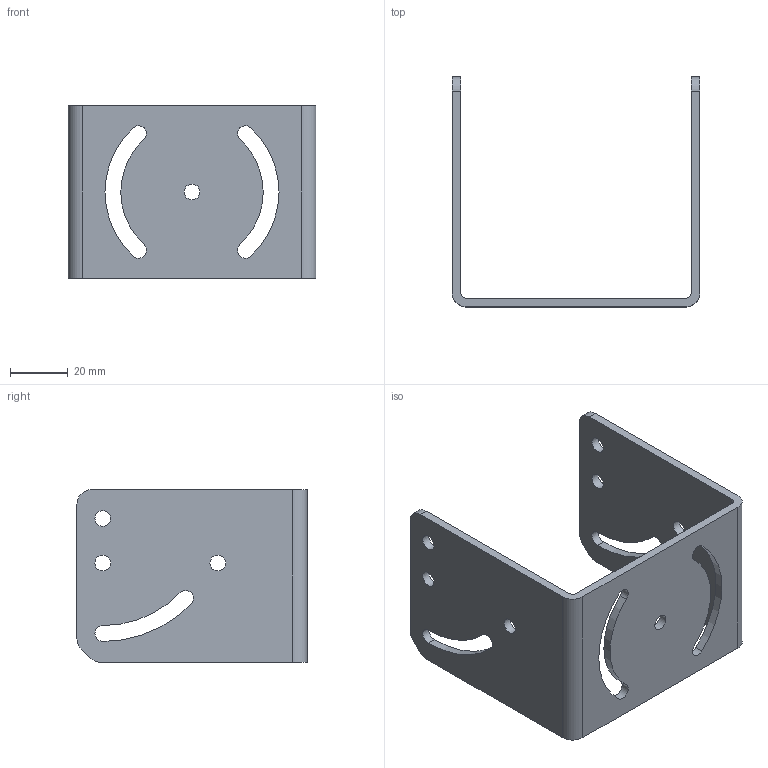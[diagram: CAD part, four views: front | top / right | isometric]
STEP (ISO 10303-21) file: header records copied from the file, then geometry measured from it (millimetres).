
FILE_DESCRIPTION(/* description */ ('STEP AP203'),/* implementation_level */ '2;1');
FILE_NAME(/* name */ 'E23009',/* time_stamp */ '2024-03-05T13:10:15+01:00',/* author */ ('License CC BY-ND 4.0'),/* organization */ ('CADENAS'),/* preprocessor_version */ 'ST-DEVELOPER v19.3',/* originating_system */ 'PARTsolutions',/* authorisation */ ' ');
FILE_SCHEMA (('CONFIG_CONTROL_DESIGN'));
Length unit declared in the file: millimetre
Products named in the file (1): E23009
Bounding box: 86.2 x 80 x 60 mm (x, y, z)
Volume: 39198 mm3; surface area: 29381.1 mm2
Topology: 1 solids, 1 shells, 45 faces, 135 edges, 92 vertices
Faces by surface type: cylinder 33, plane 12
Full cylindrical faces by diameter (mm): 5.5 x7
Entity records: 1548 total; most frequent: DIRECTION 280, CARTESIAN_POINT 254, ORIENTED_EDGE 244, EDGE_CURVE 122, AXIS2_PLACEMENT_3D 112, VERTEX_POINT 86, EDGE_LOOP 74, FACE_BOUND 74
